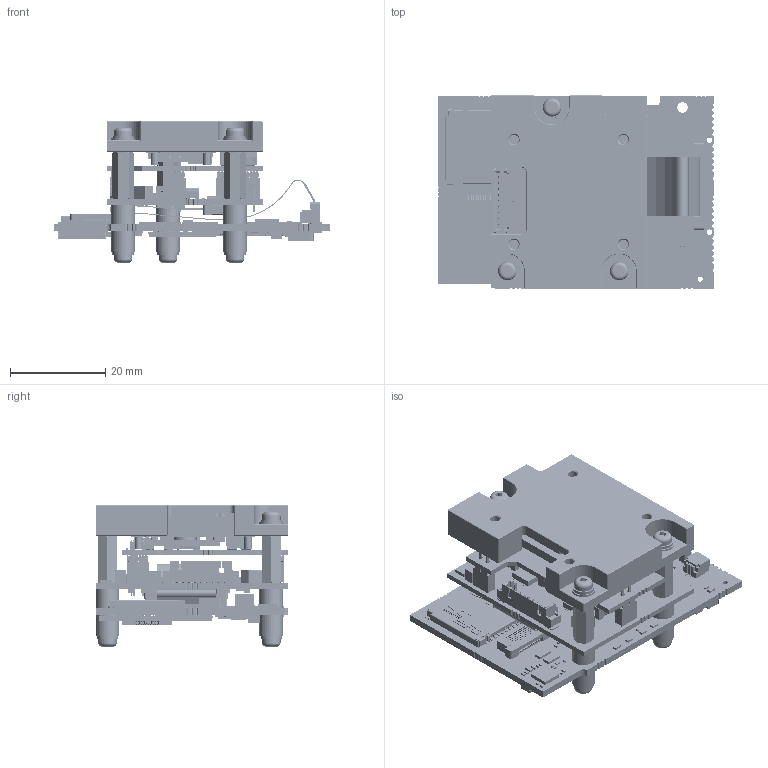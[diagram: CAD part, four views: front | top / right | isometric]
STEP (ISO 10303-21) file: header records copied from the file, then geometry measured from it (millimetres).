
FILE_DESCRIPTION( ( 'Unknown' ), '1' );
FILE_NAME( 'Q:/2003/Product3DCADModels/STEP-test/mm-ap29c01-0173-0101.stp', 'Unknown', ( 'Unknown' ), ( 'Unknown' ), 'PSStep 17.0.49', 'Unknown', ' ' );
FILE_SCHEMA( ( 'AUTOMOTIVE_DESIGN { 1 0 10303 214 1 1 1 1 }' ) );
Length unit declared in the file: millimetre
Products named in the file (670): Lead-1; Open_CASCADE_STEP_translator_6.8_1.2.1; Lead-7; Lead-2; Lead-3; Lead-5; Lead; Lead-4; Lead-6; Pin_Shape; Open_CASCADE_STEP_translator_6.8_17.4.1; 6453125152; Extruded; 5993357248; body; MYBSP01201ABF_step_Pin1; MYBSP01201ABF_step; Body; DEFAULT; DEFAULT-1; DEFAULT-2; Open_CASCADE_STEP_translator_6.8_17.2.1; FRAME_RUG0010A; Open CASCADE STEP translator 6.8 16.15.1.1.1; Open CASCADE STEP translator 6.8 16.15.1.1.2; Open CASCADE STEP translator 6.8 16.15.1.1.3; Open CASCADE STEP translator 6.8 16.15.1.1.4; Open CASCADE STEP translator 6.8 16.15.1.1.5; Open CASCADE STEP translator 6.8 16.15.1.1.6; Open CASCADE STEP translator 6.8 16.15.1.1.7; Open CASCADE STEP translator 6.8 16.15.1.1.8; Open CASCADE STEP translator 6.8 16.15.1.1.9; Open CASCADE STEP translator 6.8 16.15.1.1.10; C105; L3-872; 6388988816; PSU101; 6993085408; 8316622048; 6388988656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
Assembly tree (1555 placements, depth 7):
  Assem1
    G-875-322T  x6
    flexi-01
    G-977-016Z  x6
    G-915-068V  x6
    G-918-585J  x3
    G-106-321A  x3
    heatsink-0389-02
    G-080-752R  x3
    mm-ap29c01-0111-0301
      Board
        Open CASCADE STEP translator 6.8 16.1.1
          Open CASCADE STEP translator 6.8 16.1.1.1
      U9
        6292125808
          Thermal_Shape
          Open_CASCADE_STEP_translator_6.8_17.1
          Body
            Open_CASCADE_STEP_translator_6.8_17.2.1
          Pin_Shape  x24
            Open_CASCADE_STEP_translator_6.8_17.4.1
      R20
        6519727536
          Extruded
      L20
        CR1005-0402
        CR1005-0402
        CR1005-0402
        CR1005-0402
      C201
        6519727536
          Extruded
      C200
        6519727536
          Extruded
      C168
        CR1005-0402
        CR1005-0402
        CR1005-0402
        CR1005-0402
      U6
        6811100368
          Extruded
      R109
        6519727536
          Extruded
      R108
        6250716752
          Extruded
      C136
        6519727536
          Extruded
      R107
        6250716752
          Extruded
      R106
        6250716752
          Extruded
      R105
        6250716752
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Bounding box: 58.1 x 40.5 x 29.69 mm (x, y, z)
Volume: 15815.6 mm3; surface area: 30110.1 mm2
Topology: 1167 solids, 1168 shells, 18515 faces, 46675 edges, 30393 vertices
Faces by surface type: plane 15583, cylinder 2382, sphere 164, torus 151, revolution 140, bspline 60, cone 35
Full cylindrical faces by diameter (mm): 0.041 x1, 0.1 x184, 0.15 x1, 0.2 x2, 0.25 x1, 0.5 x1, 0.519 x1, 0.8 x8, 0.9 x8, 1 x1, 1.09 x1, 1.1 x2, 1.12 x2, 1.567 x3, 1.6 x4, 2 x8, 2.013 x4, 2.2 x22, 3.88 x6, 4.5 x6, 5 x13
Entity records: 355650 total; most frequent: CARTESIAN_POINT 48527, DIRECTION 46018, ORIENTED_EDGE 44617, EDGE_CURVE 22309, LINE 18773, VECTOR 18773, VERTEX_POINT 14727, AXIS2_PLACEMENT_3D 13605
